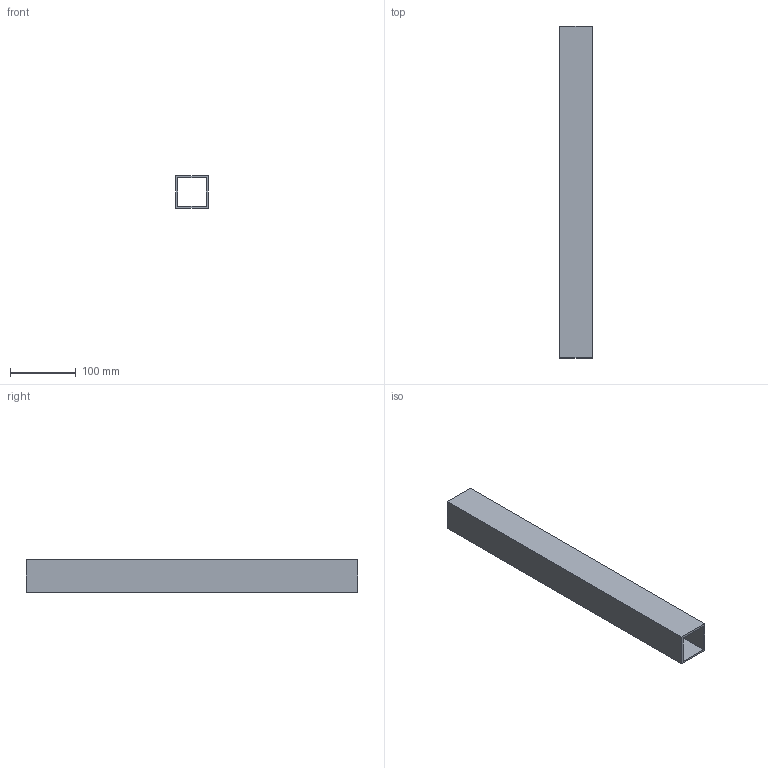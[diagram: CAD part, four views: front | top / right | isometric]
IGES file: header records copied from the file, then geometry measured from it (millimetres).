
Start section: SolidWorks IGES file using analytic representation for surfaces
Global section: file name: C:\Users\sebas\Documents\SOLIDWORKSComposer\TESIS\3. Dosificadora\IGS\Pata del dosificador.IGS; native system: SolidWorks 2022; preprocessor: SolidWorks 2022; author: sebas; date: 220619.065850; units: millimetre
Bounding box: 50 x 506.49 x 50 mm (x, y, z)
Surface area: 191568.2 mm2 (no closed solid volume)
Topology: 0 solids, 0 shells, 10 faces, 48 edges, 48 vertices
Faces by surface type: bspline 10
